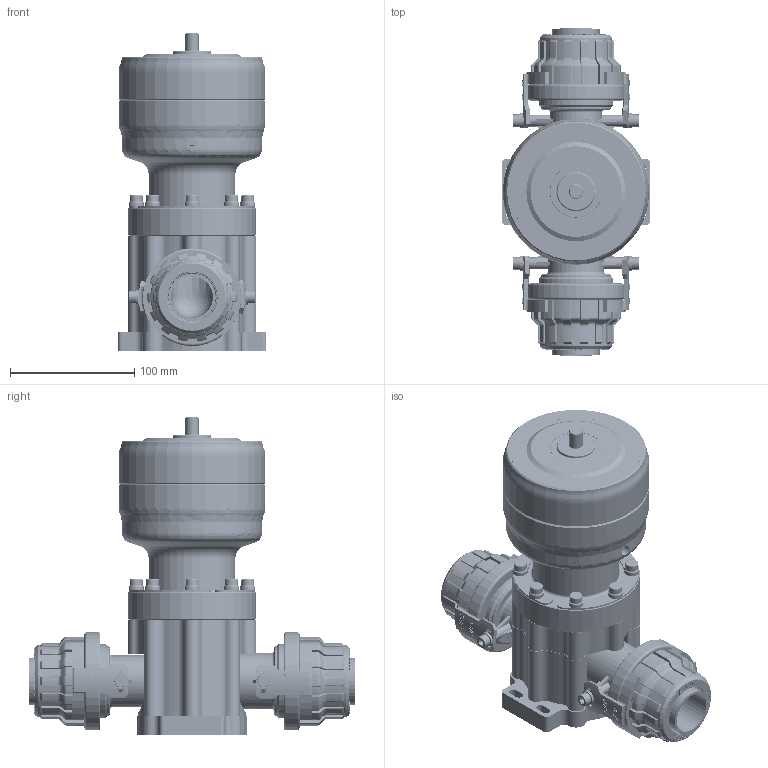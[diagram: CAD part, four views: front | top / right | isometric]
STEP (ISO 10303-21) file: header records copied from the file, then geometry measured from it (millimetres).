
FILE_DESCRIPTION(/* description */ (''),/* implementation_level */ '2;1');
FILE_NAME(/* name */ '112 av.stp',/* time_stamp */ '2020-01-15T15:52:00+09:00',/* author */ (''),/* organization */ (''),/* preprocessor_version */ 'ST-DEVELOPER v11',/* originating_system */ 'SIEMENS PLM Software NX 7.5',/* authorisation */ '');
FILE_SCHEMA (('AUTOMOTIVE_DESIGN { 1 0 10303 214 1 1 1 1 }'));
Products named in the file (107): Insert Nut(M5x23)_7; Insert Nut(M5x23)_6; Insert Nut(M5x23)_5; Insert Nut(M5x23)_4; Insert Nut(M5x23)_3; Insert Nut(M5x23)_2; Insert Nut(M5x23)_1; Insert Nut(M5x23); Middle Case(1.12); 1.12 inch NUT Assy_1; 1.12 inch NUT Assy; Compress_1.12 (AV); 114x1.9t -102-0206; 1.12 - 75pi; Body Assy(AV); Plate; Indicator Cap(15A); PC CAP(1.12); End Cap(11pi_3)_10; M5 Washer(10pi)_17; M5 Spring Washer_22; BOLT M5(35mm) AV Top_10; End Cap(11pi_3)_9; M5 Washer(10pi)_16; M5 Spring Washer_21; BOLT M5(35mm) AV Top_9; End Cap(11pi_3)_8; M5 Washer(10pi)_15; M5 Spring Washer_20; BOLT M5(35mm) AV Top_8; End Cap(11pi_3)_7; M5 Washer(10pi)_14; M5 Spring Washer_19; BOLT M5(35mm) AV Top_7; End Cap(11pi_3)_6; M5 Washer(10pi)_13; M5 Spring Washer_18; BOLT M5(35mm) AV Top_6; End Cap(11pi_3)_5; M5 Washer(10pi)_12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
Assembly tree (113 placements, depth 4):
  112av_stp
    1.12  MV
      Middle Case(1.12) Assy
        Middle Case(1.12)
        Insert Nut(M5x23)
        Insert Nut(M5x23)_1
        Insert Nut(M5x23)_2
        Insert Nut(M5x23)_3
        Insert Nut(M5x23)_4
        Insert Nut(M5x23)_5
        Insert Nut(M5x23)_6
        Insert Nut(M5x23)_7
      1.12 - 75pi
      114x1.9t -102-0206
      Compress_1.12 (AV)
      1.12 inch NUT Assy
      1.12 inch NUT Assy_1
    Top Case(1.12)
    Upper Case(1.12)
    Piston(1.12)
    Shaft(1.12)
    Indicator(1.12)
    Diaphgram1(1.12)
    3t SUS
    3t SUS_1
    BOLT M5(70mm)MV
    M5 Spring Washer
    BOLT M5(70mm)MV_1
    M5 Spring Washer_1
    BOLT M5(70mm)MV_2
    M5 Spring Washer_2  x4
    BOLT M5(70mm)MV_3
    M5 Spring Washer_3
    BOLT M5(70mm)MV_4
    M5 Spring Washer_4
    BOLT M5(70mm)MV_5
    M5 Spring Washer_5
    M5 Spring Washer_6
    BOLT M5(30mm)
    M5 PP End CAP
    M5 Spring Washer_7
    BOLT M5(30mm)_1
    M5 PP End CAP_1
    M5 Spring Washer_8
    BOLT M5(30mm)_2
    M5 PP End CAP_2
    M5 Spring Washer_9
    BOLT M5(30mm)_3
    M5 PP End CAP_3
    M5 Spring Washer_10
    BOLT M5(30mm)_4
    M5 PP End CAP_4
    BOLT M5(30mm)_5
    M5 PP End CAP_5
    M5 Spring Washer_11
    BOLT M5(30mm)_6
    M5 PP End CAP_6
    M5 Spring Washer_12
    BOLT M5(30mm)_7
    M5 PP End CAP_7
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Bounding box: 120 x 263.5 x 255.53 mm (x, y, z)
Volume: 1898324.9 mm3; surface area: 584149.9 mm2
Topology: 124 solids, 124 shells, 5506 faces, 13246 edges, 8190 vertices
Faces by surface type: plane 1955, cylinder 1475, bspline 1001, torus 545, cone 345, sphere 185
Full cylindrical faces by diameter (mm): 2.5 x12, 3 x1, 3.464 x26, 4.134 x24, 5 x26, 5.4 x12, 5.5 x42, 6 x8, 6.3 x1, 6.5 x17, 7.85 x1, 8 x3, 8.3 x8, 8.376 x1, 8.5 x26, 8.566 x1, 8.6 x12, 8.667 x1, 9 x6, 9.333 x2, 9.5 x4, 9.8 x12, 10 x13, 10.106 x1, 10.3 x8, 10.667 x2, 11 x26, 11.333 x1, 12 x12, 12.667 x1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
Entity records: 230084 total; most frequent: CARTESIAN_POINT 106520, ORIENTED_EDGE 24302, DIRECTION 22628, EDGE_CURVE 12151, AXIS2_PLACEMENT_3D 8811, VERTEX_POINT 7952, EDGE_LOOP 6656, ADVANCED_FACE 5459
